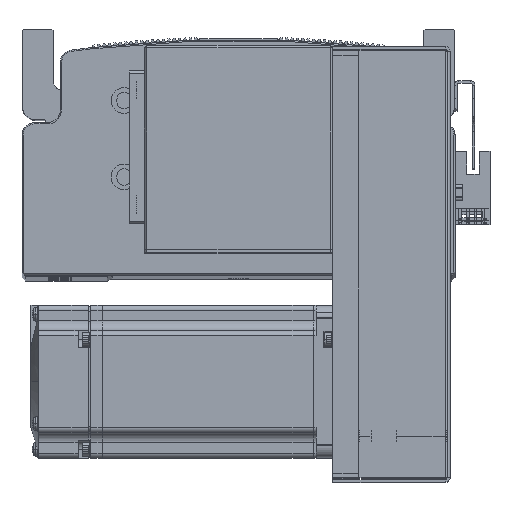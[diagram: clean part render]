
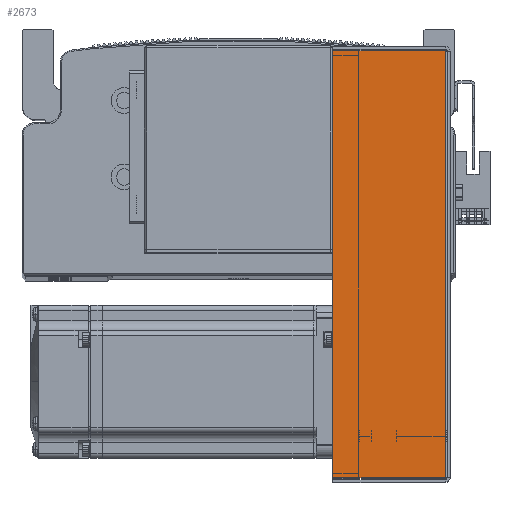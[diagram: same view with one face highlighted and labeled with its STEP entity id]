
A CAD part, top view. The second image highlights one B-rep face of the part: STEP entity #2673.
In plain terms, the highlighted planar face has unit normal (0, 0, 1) as drawn and (0, 0, -1) by its records, which use the part's own axes.
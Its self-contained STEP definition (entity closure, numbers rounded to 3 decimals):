
#2673 = ADVANCED_FACE ( 'NONE', ( #39859 ), #81290, .F. ) ;
#20716 = AXIS2_PLACEMENT_3D ( 'NONE', #81303, #81287, #81258 ) ;
#20796 = VECTOR ( 'NONE', #44237, 1000. ) ;
#20814 = LINE ( 'NONE', #44234, #20796 ) ;
#20951 = LINE ( 'NONE', #44307, #21018 ) ;
#21018 = VECTOR ( 'NONE', #44308, 1000. ) ;
#21130 = VECTOR ( 'NONE', #44518, 1000. ) ;
#21178 = VECTOR ( 'NONE', #44524, 1000. ) ;
#21210 = LINE ( 'NONE', #45393, #21130 ) ;
#21246 = LINE ( 'NONE', #44497, #21178 ) ;
#23353 = VERTEX_POINT ( 'NONE', #73252 ) ;
#23370 = VERTEX_POINT ( 'NONE', #73449 ) ;
#23392 = VERTEX_POINT ( 'NONE', #73365 ) ;
#23402 = VERTEX_POINT ( 'NONE', #73393 ) ;
#39859 = FACE_OUTER_BOUND ( 'NONE', #69984, .T. ) ;
#44234 = CARTESIAN_POINT ( 'NONE',  ( 0., 0.737, -40.5 ) ) ;
#44237 = DIRECTION ( 'NONE',  ( 1., 0., 0. ) ) ;
#44307 = CARTESIAN_POINT ( 'NONE',  ( 84.5, 45., -40.5 ) ) ;
#44308 = DIRECTION ( 'NONE',  ( 1., 0., 0. ) ) ;
#44497 = CARTESIAN_POINT ( 'NONE',  ( 83.793, 0., -40.5 ) ) ;
#44518 = DIRECTION ( 'NONE',  ( 0., 1., 0. ) ) ;
#44524 = DIRECTION ( 'NONE',  ( 0., 1., 0. ) ) ;
#45393 = CARTESIAN_POINT ( 'NONE',  ( -83.793, 0., -40.5 ) ) ;
#45623 = ORIENTED_EDGE ( 'NONE', *, *, #57538, .T. ) ;
#45633 = ORIENTED_EDGE ( 'NONE', *, *, #57457, .F. ) ;
#45663 = ORIENTED_EDGE ( 'NONE', *, *, #57551, .F. ) ;
#45674 = ORIENTED_EDGE ( 'NONE', *, *, #57479, .T. ) ;
#57457 = EDGE_CURVE ( 'NONE', #23392, #23370, #20814, .T. ) ;
#57479 = EDGE_CURVE ( 'NONE', #23353, #23402, #20951, .T. ) ;
#57538 = EDGE_CURVE ( 'NONE', #23392, #23353, #21210, .T. ) ;
#57551 = EDGE_CURVE ( 'NONE', #23370, #23402, #21246, .T. ) ;
#69984 = EDGE_LOOP ( 'NONE', ( #45633, #45623, #45674, #45663 ) ) ;
#73252 = CARTESIAN_POINT ( 'NONE',  ( -83.793, 45., -40.5 ) ) ;
#73365 = CARTESIAN_POINT ( 'NONE',  ( -83.793, 0.737, -40.5 ) ) ;
#73393 = CARTESIAN_POINT ( 'NONE',  ( 83.793, 45., -40.5 ) ) ;
#73449 = CARTESIAN_POINT ( 'NONE',  ( 83.793, 0.737, -40.5 ) ) ;
#81258 = DIRECTION ( 'NONE',  ( 0., -1., 0. ) ) ;
#81287 = DIRECTION ( 'NONE',  ( 0., 0., 1. ) ) ;
#81290 = PLANE ( 'NONE',  #20716 ) ;
#81303 = CARTESIAN_POINT ( 'NONE',  ( 0., 0., -40.5 ) ) ;
